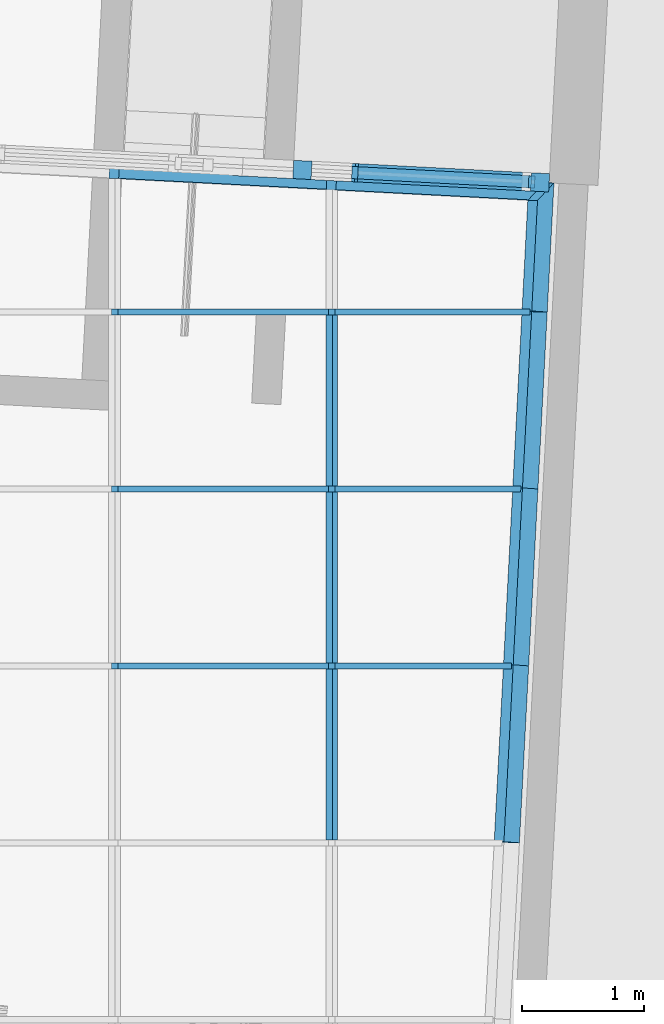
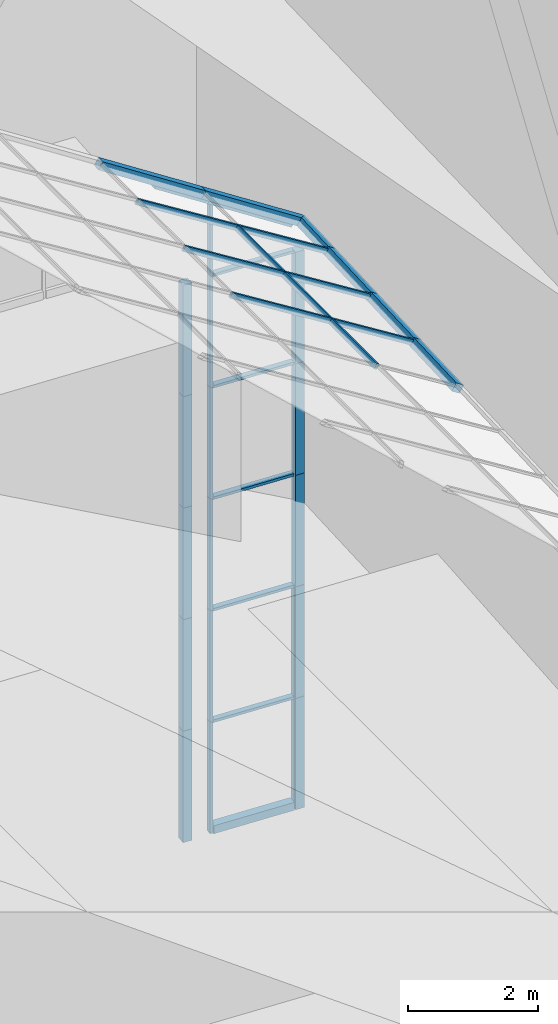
# One storey, part 21 of 82: 41 members, 1 element without a shape of its own.
"""IFC2X3 building model written with IfcOpenShell, lengths in millimetres."""

from ifc_helpers import new_model, entity, si_unit, converted_unit, derived_unit, direction, frame, frame_2d, origin, origin_2d_with_axis, place, context, subcontext, project, spatial, polyline, rectangle, extrude, clip, halfspace, bounded_halfspace, source, transform, mapped, material, type_object, type_shapes, element, aggregate, save


model = new_model("IFC2X3")

# Units and contexts
model_context = context("Model", 3, precision=0.01, world=origin(), true_north=direction((6.12303176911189e-17, 1.0)))
body_context = subcontext(model_context, "Body", "Model", "MODEL_VIEW")
ifc_project = project(units=[si_unit("LENGTHUNIT", "METRE", prefix="MILLI"), si_unit("AREAUNIT", "SQUARE_METRE"), si_unit("VOLUMEUNIT", "CUBIC_METRE"), converted_unit("PLANEANGLEUNIT", "DEGREE", entity("IfcRatioMeasure", 0.0174532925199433), si_unit("PLANEANGLEUNIT", "RADIAN"), dimensions=[0, 0, 0, 0, 0, 0, 0]), si_unit("MASSUNIT", "GRAM", prefix="KILO"), derived_unit("MASSDENSITYUNIT", [(si_unit("MASSUNIT", "GRAM", prefix="KILO"), 1), (si_unit("LENGTHUNIT", "METRE"), -3)]), si_unit("TIMEUNIT", "SECOND"), si_unit("FREQUENCYUNIT", "HERTZ"), si_unit("THERMODYNAMICTEMPERATUREUNIT", "DEGREE_CELSIUS"), derived_unit("THERMALTRANSMITTANCEUNIT", [(si_unit("MASSUNIT", "GRAM", prefix="KILO"), 1), (si_unit("THERMODYNAMICTEMPERATUREUNIT", "KELVIN"), -1), (si_unit("TIMEUNIT", "SECOND"), -3)]), derived_unit("VOLUMETRICFLOWRATEUNIT", [(si_unit("LENGTHUNIT", "METRE"), 3), (si_unit("TIMEUNIT", "SECOND"), -1)]), si_unit("ELECTRICCURRENTUNIT", "AMPERE"), si_unit("ELECTRICVOLTAGEUNIT", "VOLT"), si_unit("POWERUNIT", "WATT"), si_unit("FORCEUNIT", "NEWTON", prefix="KILO"), si_unit("ILLUMINANCEUNIT", "LUX"), si_unit("LUMINOUSFLUXUNIT", "LUMEN"), si_unit("LUMINOUSINTENSITYUNIT", "CANDELA"), derived_unit("USERDEFINED", [(si_unit("MASSUNIT", "GRAM", prefix="KILO"), -1), (si_unit("LENGTHUNIT", "METRE"), -2), (si_unit("TIMEUNIT", "SECOND"), 3), (si_unit("LUMINOUSFLUXUNIT", "LUMEN"), 1)]), derived_unit("LINEARVELOCITYUNIT", [(si_unit("LENGTHUNIT", "METRE"), 1), (si_unit("TIMEUNIT", "SECOND"), -1)]), si_unit("PRESSUREUNIT", "PASCAL"), derived_unit("USERDEFINED", [(si_unit("LENGTHUNIT", "METRE"), -2), (si_unit("MASSUNIT", "GRAM", prefix="KILO"), 1), (si_unit("TIMEUNIT", "SECOND"), -2)])], contexts=[model_context])

# Site, building, storey
site_placement = place(None, origin())
site = spatial("IfcSite", under=ifc_project, at=site_placement, Name="表面", CompositionType="ELEMENT")
building_placement = place(site_placement, origin())
building = spatial("IfcBuilding", under=site, at=building_placement, CompositionType="ELEMENT")
storey_placement = place(building_placement, origin())
storey = spatial("IfcBuildingStorey", under=building, at=storey_placement, Name="1F", CompositionType="ELEMENT", Elevation=0.0)

# Curtain wall, members
curtain_wall_type = type_object("IfcCurtainWallType", Name="幕墙系统:1450 x 2100mm", PredefinedType="NOTDEFINED")
curtain_wall_placement = place(storey_placement, origin())
curtain_wall = element("IfcCurtainWall", 1, at=curtain_wall_placement, inside=storey, type_object=curtain_wall_type, Name="幕墙系统:1450 x 2100mm", ObjectType="幕墙系统:1450 x 2100mm")
ifc_material_1 = material(Name="金属 - 铝")
member_type_1 = type_object("IfcMemberType", Name="50 x 100mm", PredefinedType="MEMBER")
shared_shape_1 = source(origin(), body_context, "Body", "SweptSolid", [
    extrude(rectangle(XDim=100.0, YDim=50.0, at=origin_2d_with_axis()), frame((0.0, 0.0, -1400.0), z_axis=(0.0, 0.0, 1.0), x_axis=(0.0, -1.0, 0.0)), (0.0, 0.0, 1.0), 1400.0),
])
type_shapes(member_type_1, [shared_shape_1])
placement_1 = place(building_placement, frame((0.0, 0.0, 9000.0)))
member_1_placement = place(placement_1, frame((-19919.0996129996, 1086.09684648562, 3143.03179701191), z_axis=(0.0, 1.0, 0.0), x_axis=(-0.848048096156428, 0.0, 0.529919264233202)))
member_1 = element("IfcMember", 2, at=member_1_placement, type_object=member_type_1, material=ifc_material_1, Name="矩形竖梃:50 x 100mm", ObjectType="50 x 100mm", context=body_context, shape_type="MappedRepresentation", body=[
    mapped(shared_shape_1, transform((0.0, 0.0, 0.0), scale=1.0)),
])
member_2_placement = place(placement_1, frame((-19919.0996129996, -363.903153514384, 3143.03179701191), z_axis=(0.0, 1.0, 0.0), x_axis=(-0.848048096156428, 0.0, 0.529919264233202)))
member_2 = element("IfcMember", 3, at=member_2_placement, type_object=member_type_1, material=ifc_material_1, Name="矩形竖梃:50 x 100mm", ObjectType="50 x 100mm", context=body_context, shape_type="MappedRepresentation", body=[
    mapped(shared_shape_1, transform((0.0, 0.0, 0.0), scale=1.0)),
])
member_3_placement = place(placement_1, frame((-19919.0996129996, -1813.90315351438, 3143.03179701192), z_axis=(0.0, 1.0, 0.0), x_axis=(-0.848048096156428, 0.0, 0.529919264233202)))
member_3 = element("IfcMember", 4, at=member_3_placement, type_object=member_type_1, material=ifc_material_1, Name="矩形竖梃:50 x 100mm", ObjectType="50 x 100mm", context=body_context, shape_type="MappedRepresentation", body=[
    mapped(shared_shape_1, transform((0.0, 0.0, 0.0), scale=1.0)),
])
member_4_placement = place(storey_placement, frame((-19705.2450585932, 2252.12508060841, 2100.0), z_axis=(-0.998629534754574, 0.0523359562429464, 0.0), x_axis=(0.0, 0.0, 1.0)))
member_4 = element("IfcMember", 5, at=member_4_placement, type_object=member_type_1, material=ifc_material_1, Name="矩形竖梃:50 x 100mm", ObjectType="50 x 100mm", context=body_context, shape_type="MappedRepresentation", body=[
    mapped(shared_shape_1, transform((0.0, 0.0, 0.0), scale=1.0)),
])
placement_2 = place(building_placement, frame((0.0, 0.0, 3000.0)))
member_5_placement = place(placement_2, frame((-19705.2450585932, 2252.12508060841, 1200.0), z_axis=(-0.998629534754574, 0.0523359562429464, 0.0), x_axis=(0.0, 0.0, 1.0)))
member_5 = element("IfcMember", 6, at=member_5_placement, type_object=member_type_1, material=ifc_material_1, Name="矩形竖梃:50 x 100mm", ObjectType="50 x 100mm", context=body_context, shape_type="MappedRepresentation", body=[
    mapped(shared_shape_1, transform((0.0, 0.0, 0.0), scale=1.0)),
])
placement_3 = place(building_placement, frame((0.0, 0.0, 6000.0)))
member_6_placement = place(placement_3, frame((-19705.2450585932, 2252.1250806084, 300.0), z_axis=(-0.998629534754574, 0.0523359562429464, 0.0), x_axis=(0.0, 0.0, 1.0)))
member_6 = element("IfcMember", 7, at=member_6_placement, type_object=member_type_1, material=ifc_material_1, Name="矩形竖梃:50 x 100mm", ObjectType="50 x 100mm", context=body_context, shape_type="MappedRepresentation", body=[
    mapped(shared_shape_1, transform((0.0, 0.0, 0.0), scale=1.0)),
])
member_7_placement = place(placement_3, frame((-19705.2450585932, 2252.1250806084, 2400.0), z_axis=(-0.998629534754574, 0.0523359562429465, 0.0), x_axis=(0.0, 0.0, 1.0)))
member_7 = element("IfcMember", 8, at=member_7_placement, type_object=member_type_1, material=ifc_material_1, Name="矩形竖梃:50 x 100mm", ObjectType="50 x 100mm", context=body_context, shape_type="MappedRepresentation", body=[
    mapped(shared_shape_1, transform((0.0, 0.0, 0.0), scale=1.0)),
])
member_8_placement = place(placement_1, frame((-19705.2450585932, 2252.1250806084, 1500.0), z_axis=(-0.998629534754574, 0.0523359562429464, 0.0), x_axis=(0.0, 0.0, 1.0)))
member_8 = element("IfcMember", 9, at=member_8_placement, type_object=member_type_1, material=ifc_material_1, Name="矩形竖梃:50 x 100mm", ObjectType="50 x 100mm", context=body_context, shape_type="MappedRepresentation", body=[
    mapped(shared_shape_1, transform((0.0, 0.0, 0.0), scale=1.0)),
])
member_type_2 = type_object("IfcMemberType", Name="50 x 100mm", PredefinedType="MEMBER")
shared_shape_2 = source(origin(), body_context, "Body", "SweptSolid", [
    extrude(rectangle(XDim=100.0, YDim=50.0, at=origin_2d_with_axis()), frame((0.0, 0.0, -2100.0), z_axis=(0.0, 0.0, 1.0), x_axis=(0.0, -1.0, 0.0)), (0.0, 0.0, 1.0), 2100.0),
])
type_shapes(member_type_2, [shared_shape_2])
member_9_placement = place(storey_placement, frame((-19730.2107969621, 2253.43347951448, 2100.0), z_axis=(0.0, 0.0, 1.0), x_axis=(0.998629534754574, -0.0523359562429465, 0.0)))
member_9 = element("IfcMember", 10, at=member_9_placement, type_object=member_type_2, material=ifc_material_1, Name="矩形竖梃:50 x 100mm", ObjectType="50 x 100mm", context=body_context, shape_type="MappedRepresentation", body=[
    mapped(shared_shape_2, transform((0.0, 0.0, 0.0), scale=1.0)),
])
member_10_placement = place(storey_placement, frame((-18282.1979715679, 2177.54634296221, 2100.0), z_axis=(0.0, 0.0, 1.0), x_axis=(0.998629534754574, -0.0523359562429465, 0.0)))
member_10 = element("IfcMember", 11, at=member_10_placement, type_object=member_type_2, material=ifc_material_1, Name="矩形竖梃:50 x 100mm", ObjectType="50 x 100mm", context=body_context, shape_type="MappedRepresentation", body=[
    mapped(shared_shape_2, transform((0.0, 0.0, 0.0), scale=1.0)),
])
member_type_3 = type_object("IfcMemberType", Name="50 x 100mm", PredefinedType="MEMBER")
shared_shape_3 = source(origin(), body_context, "Body", "SweptSolid", [
    extrude(rectangle(XDim=100.0, YDim=50.0, at=origin_2d_with_axis()), frame((0.0, 0.0, -2100.0), z_axis=(0.0, 0.0, 1.0), x_axis=(0.0, -1.0, 0.0)), (0.0, 0.0, 1.0), 2100.0),
])
type_shapes(member_type_3, [shared_shape_3])
member_11_placement = place(placement_1, frame((-21700.0006149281, 1111.09684648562, 4255.86225190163), z_axis=(-0.848048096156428, 0.0, 0.529919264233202), x_axis=(0.0, -1.0, 0.0)))
member_11 = element("IfcMember", 12, at=member_11_placement, type_object=member_type_3, material=ifc_material_1, Name="矩形竖梃:50 x 100mm", ObjectType="50 x 100mm", context=body_context, shape_type="MappedRepresentation", body=[
    mapped(shared_shape_3, transform((0.0, 0.0, 0.0), scale=1.0)),
])
member_12_placement = place(placement_1, frame((-21700.0006149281, -338.903153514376, 4255.86225190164), z_axis=(-0.848048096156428, 0.0, 0.529919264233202), x_axis=(0.0, -1.0, 0.0)))
member_12 = element("IfcMember", 13, at=member_12_placement, type_object=member_type_3, material=ifc_material_1, Name="矩形竖梃:50 x 100mm", ObjectType="50 x 100mm", context=body_context, shape_type="MappedRepresentation", body=[
    mapped(shared_shape_3, transform((0.0, 0.0, 0.0), scale=1.0)),
])
member_13_placement = place(placement_1, frame((-21700.0006149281, -1788.90315351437, 4255.86225190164), z_axis=(-0.848048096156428, 0.0, 0.529919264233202), x_axis=(0.0, -1.0, 0.0)))
member_13 = element("IfcMember", 14, at=member_13_placement, type_object=member_type_3, material=ifc_material_1, Name="矩形竖梃:50 x 100mm", ObjectType="50 x 100mm", context=body_context, shape_type="MappedRepresentation", body=[
    mapped(shared_shape_3, transform((0.0, 0.0, 0.0), scale=1.0)),
])
member_14_placement = place(storey_placement, frame((-19730.2107969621, 2253.43347951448, 4200.0), z_axis=(0.0, 0.0, 1.0), x_axis=(0.998629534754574, -0.0523359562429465, 0.0)))
member_14 = element("IfcMember", 15, at=member_14_placement, type_object=member_type_3, material=ifc_material_1, Name="矩形竖梃:50 x 100mm", ObjectType="50 x 100mm", context=body_context, shape_type="MappedRepresentation", body=[
    mapped(shared_shape_3, transform((0.0, 0.0, 0.0), scale=1.0)),
])
member_15_placement = place(storey_placement, frame((-18282.1979715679, 2177.54634296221, 4200.0), z_axis=(0.0, 0.0, 1.0), x_axis=(0.998629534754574, -0.0523359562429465, 0.0)))
member_15 = element("IfcMember", 16, at=member_15_placement, type_object=member_type_3, material=ifc_material_1, Name="矩形竖梃:50 x 100mm", ObjectType="50 x 100mm", context=body_context, shape_type="MappedRepresentation", body=[
    mapped(shared_shape_3, transform((0.0, 0.0, 0.0), scale=1.0)),
])
member_16_placement = place(placement_2, frame((-19730.2107969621, 2253.43347951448, 3300.0), z_axis=(0.0, 0.0, 1.0), x_axis=(0.998629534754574, -0.0523359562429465, 0.0)))
member_16 = element("IfcMember", 17, at=member_16_placement, type_object=member_type_3, material=ifc_material_1, Name="矩形竖梃:50 x 100mm", ObjectType="50 x 100mm", context=body_context, shape_type="MappedRepresentation", body=[
    mapped(shared_shape_3, transform((0.0, 0.0, 0.0), scale=1.0)),
])
member_17_placement = place(placement_3, frame((-19730.2107969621, 2253.43347951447, 2400.0), z_axis=(0.0, 0.0, 1.0), x_axis=(0.998629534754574, -0.0523359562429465, 0.0)))
member_17 = element("IfcMember", 18, at=member_17_placement, type_object=member_type_3, material=ifc_material_1, Name="矩形竖梃:50 x 100mm", ObjectType="50 x 100mm", context=body_context, shape_type="MappedRepresentation", body=[
    mapped(shared_shape_3, transform((0.0, 0.0, 0.0), scale=1.0)),
])
member_18_placement = place(placement_3, frame((-19730.2107969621, 2253.43347951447, 4500.0), z_axis=(0.0, 0.0, 1.0), x_axis=(0.998629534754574, -0.0523359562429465, 0.0)))
member_18 = element("IfcMember", 19, at=member_18_placement, type_object=member_type_3, material=ifc_material_1, Name="矩形竖梃:50 x 100mm", ObjectType="50 x 100mm", context=body_context, shape_type="MappedRepresentation", body=[
    mapped(shared_shape_3, transform((0.0, 0.0, 0.0), scale=1.0)),
])
ifc_material_2 = material(Name="木质 - 木材")
member_type_4 = type_object("IfcMemberType", Name="200 x 150mm", PredefinedType="MEMBER")
shared_shape_4 = source(origin(), body_context, "Body", "SweptSolid", [
    extrude(rectangle(XDim=150.0, YDim=150.0, at=origin_2d_with_axis()), frame((-75.0, 0.0, -1400.0), z_axis=(0.0, 0.0, 1.0), x_axis=(0.0, -1.0, 0.0)), (0.0, 0.0, 1.0), 1400.0),
])
type_shapes(member_type_4, [shared_shape_4])
member_19_placement = place(storey_placement, frame((-18307.1637099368, 2178.85474186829, 0.0), z_axis=(0.998629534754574, -0.0523359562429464, 0.0), x_axis=(0.0, 0.0, -1.0)))
member_19 = element("IfcMember", 20, at=member_19_placement, type_object=member_type_4, material=ifc_material_2, Name="矩形竖梃:200 x 150mm", ObjectType="200 x 150mm", context=body_context, shape_type="MappedRepresentation", body=[
    mapped(shared_shape_4, transform((0.0, 0.0, 0.0), scale=1.0)),
])
member_type_5 = type_object("IfcMemberType", Name="200 x 150mm", PredefinedType="MEMBER")
shared_shape_5 = source(origin(), body_context, "Body", "SweptSolid", [
    extrude(rectangle(XDim=150.0, YDim=150.0, at=origin_2d_with_axis()), frame((-75.0, 0.0, -2100.0), z_axis=(0.0, 0.0, 1.0), x_axis=(0.0, -1.0, 0.0)), (0.0, 0.0, 1.0), 2100.0),
])
type_shapes(member_type_5, [shared_shape_5])
member_20_placement = place(storey_placement, frame((-20235.3206340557, 2279.90516437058, 0.0), z_axis=(0.0, 0.0, -1.0), x_axis=(-0.998629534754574, 0.0523359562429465, 0.0)))
member_20 = element("IfcMember", 21, at=member_20_placement, type_object=member_type_5, material=ifc_material_2, Name="矩形竖梃:200 x 150mm", ObjectType="200 x 150mm", context=body_context, shape_type="MappedRepresentation", body=[
    mapped(shared_shape_5, transform((0.0, 0.0, 0.0), scale=1.0)),
])
member_type_6 = type_object("IfcMemberType", Name="200 x 150mm", PredefinedType="MEMBER")
shared_shape_6 = source(origin(), body_context, "Body", "SweptSolid", [
    extrude(rectangle(XDim=150.0, YDim=150.0, at=origin_2d_with_axis()), frame((-75.0, 0.0, -2100.0), z_axis=(0.0, 0.0, 1.0), x_axis=(0.0, -1.0, 0.0)), (0.0, 0.0, 1.0), 2100.0),
])
type_shapes(member_type_6, [shared_shape_6])
member_21_placement = place(storey_placement, frame((-20235.3206340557, 2279.90516437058, 2100.0), z_axis=(0.0, 0.0, -1.0), x_axis=(-0.998629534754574, 0.0523359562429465, 0.0)))
member_21 = element("IfcMember", 22, at=member_21_placement, type_object=member_type_6, material=ifc_material_2, Name="矩形竖梃:200 x 150mm", ObjectType="200 x 150mm", context=body_context, shape_type="MappedRepresentation", body=[
    mapped(shared_shape_6, transform((0.0, 0.0, 0.0), scale=1.0)),
])
member_22_placement = place(placement_2, frame((-20235.3206340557, 2279.90516437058, 1200.0), z_axis=(0.0, 0.0, -1.0), x_axis=(-0.998629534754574, 0.0523359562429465, 0.0)))
member_22 = element("IfcMember", 23, at=member_22_placement, type_object=member_type_6, material=ifc_material_2, Name="矩形竖梃:200 x 150mm", ObjectType="200 x 150mm", context=body_context, shape_type="MappedRepresentation", body=[
    mapped(shared_shape_6, transform((0.0, 0.0, 0.0), scale=1.0)),
])
member_23_placement = place(placement_3, frame((-20235.3206340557, 2279.90516437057, 300.0), z_axis=(0.0, 0.0, -1.0), x_axis=(-0.998629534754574, 0.0523359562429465, 0.0)))
member_23 = element("IfcMember", 24, at=member_23_placement, type_object=member_type_6, material=ifc_material_2, Name="矩形竖梃:200 x 150mm", ObjectType="200 x 150mm", context=body_context, shape_type="MappedRepresentation", body=[
    mapped(shared_shape_6, transform((0.0, 0.0, 0.0), scale=1.0)),
])
member_24_placement = place(placement_3, frame((-20235.3206340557, 2279.90516437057, 2400.0), z_axis=(0.0, 0.0, -1.0), x_axis=(-0.998629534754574, 0.0523359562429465, 0.0)))
member_24 = element("IfcMember", 25, at=member_24_placement, type_object=member_type_6, material=ifc_material_2, Name="矩形竖梃:200 x 150mm", ObjectType="200 x 150mm", context=body_context, shape_type="MappedRepresentation", body=[
    mapped(shared_shape_6, transform((0.0, 0.0, 0.0), scale=1.0)),
])
member_type_7 = type_object("IfcMemberType", Name="200 x 150mm", PredefinedType="MEMBER")
shared_shape_7 = source(origin(), body_context, "Body", "SweptSolid", [
    extrude(rectangle(XDim=150.0, YDim=150.0, at=origin_2d_with_axis()), frame((-75.0, 0.0, -2100.0), z_axis=(0.0, 0.0, 1.0), x_axis=(0.0, -1.0, 0.0)), (0.0, 0.0, 1.0), 2100.0),
])
type_shapes(member_type_7, [shared_shape_7])
member_25_placement = place(storey_placement, frame((-18138.1986110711, 2169.99965626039, 2100.0), z_axis=(0.0, 0.0, 1.0), x_axis=(0.998629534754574, -0.0523359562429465, 0.0)))
member_25 = element("IfcMember", 26, at=member_25_placement, type_object=member_type_7, material=ifc_material_2, Name="矩形竖梃:200 x 150mm", ObjectType="200 x 150mm", context=body_context, shape_type="MappedRepresentation", body=[
    mapped(shared_shape_7, transform((0.0, 0.0, 0.0), scale=1.0)),
])
member_type_8 = type_object("IfcMemberType", Name="200 x 150mm", PredefinedType="MEMBER")
shared_shape_8 = source(origin(), body_context, "Body", "SweptSolid", [
    extrude(rectangle(XDim=150.0, YDim=150.0, at=origin_2d_with_axis()), frame((-75.0, 0.0, -2100.0), z_axis=(0.0, 0.0, 1.0), x_axis=(0.0, -1.0, 0.0)), (0.0, 0.0, 1.0), 2100.0),
])
type_shapes(member_type_8, [shared_shape_8])
member_26_placement = place(storey_placement, frame((-18138.1986110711, 2169.99965626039, 4200.0), z_axis=(0.0, 0.0, 1.0), x_axis=(0.998629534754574, -0.0523359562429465, 0.0)))
member_26 = element("IfcMember", 27, at=member_26_placement, type_object=member_type_8, material=ifc_material_2, Name="矩形竖梃:200 x 150mm", ObjectType="200 x 150mm", context=body_context, shape_type="MappedRepresentation", body=[
    mapped(shared_shape_8, transform((0.0, 0.0, 0.0), scale=1.0)),
])
member_27_placement = place(placement_2, frame((-18138.1986110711, 2169.99965626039, 3300.0), z_axis=(0.0, 0.0, 1.0), x_axis=(0.998629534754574, -0.0523359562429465, 0.0)))
member_27 = element("IfcMember", 28, at=member_27_placement, type_object=member_type_8, material=ifc_material_2, Name="矩形竖梃:200 x 150mm", ObjectType="200 x 150mm", context=body_context, shape_type="MappedRepresentation", body=[
    mapped(shared_shape_8, transform((0.0, 0.0, 0.0), scale=1.0)),
])
member_28_placement = place(placement_3, frame((-18138.1986110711, 2169.99965626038, 2400.0), z_axis=(0.0, 0.0, 1.0), x_axis=(0.998629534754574, -0.0523359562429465, 0.0)))
member_28 = element("IfcMember", 29, at=member_28_placement, type_object=member_type_8, material=ifc_material_2, Name="矩形竖梃:200 x 150mm", ObjectType="200 x 150mm", context=body_context, shape_type="MappedRepresentation", body=[
    mapped(shared_shape_8, transform((0.0, 0.0, 0.0), scale=1.0)),
])
member_29_placement = place(placement_3, frame((-18138.1986110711, 2169.99965626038, 4500.0), z_axis=(0.0, 0.0, 1.0), x_axis=(0.998629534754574, -0.0523359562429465, 0.0)))
member_29 = element("IfcMember", 30, at=member_29_placement, type_object=member_type_8, material=ifc_material_2, Name="矩形竖梃:200 x 150mm", ObjectType="200 x 150mm", context=body_context, shape_type="MappedRepresentation", body=[
    mapped(shared_shape_8, transform((0.0, 0.0, 0.0), scale=1.0)),
])
member_type_9 = type_object("IfcMemberType", Name="200 x 150mm", PredefinedType="MEMBER")
shared_shape_9 = source(origin(), body_context, "Body", "Clipping", [
    clip(extrude(rectangle(XDim=150.0, YDim=150.0, at=frame_2d((1.35003119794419e-13, 0.0), x_axis=(1.0, 0.0))), frame((-75.0, 0.0, -2102.07303900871), z_axis=(0.0, 0.0, 1.0), x_axis=(0.0, -1.0, 0.0)), (0.0, 0.0, 1.0), 2102.07303900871), halfspace(frame((0.0, -304.8, 0.0), z_axis=(-0.713198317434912, 0.0, 0.7009623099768), x_axis=(-0.7009623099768, 0.0, -0.713198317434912)), False)),
])
type_shapes(member_type_9, [shared_shape_9])
member_30_placement = place(placement_1, frame((-18138.1986110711, 2169.99965626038, 2030.20134212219), z_axis=(0.847211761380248, -0.0444004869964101, -0.529396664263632), x_axis=(0.0376537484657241, 0.999013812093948, -0.023528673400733)))
member_30 = element("IfcMember", 31, at=member_30_placement, type_object=member_type_9, material=ifc_material_2, Name="矩形竖梃:200 x 150mm", ObjectType="200 x 150mm", context=body_context, shape_type="MappedRepresentation", body=[
    mapped(shared_shape_9, transform((0.0, 0.0, 0.0), scale=1.0)),
])
member_type_10 = type_object("IfcMemberType", Name="200 x 150mm", PredefinedType="MEMBER")
shared_shape_10 = source(origin(), body_context, "Body", "Clipping", [
    clip(extrude(rectangle(XDim=150.0, YDim=150.0, at=origin_2d_with_axis()), frame((-75.0, 0.0, -1060.92286201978), z_axis=(0.0, 0.0, 1.0), x_axis=(0.0, -1.0, 0.0)), (0.0, 0.0, 1.0), 1060.92286201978), halfspace(frame((0.0, -304.800000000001, -1060.92286201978), z_axis=(-0.713198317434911, 0.0, -0.7009623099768), x_axis=(-0.7009623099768, 0.0, 0.713198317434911)), False)),
])
type_shapes(member_type_10, [shared_shape_10])
member_31_placement = place(placement_1, frame((-18193.693355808, 1111.09684648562, 2064.87830730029), z_axis=(-0.0523079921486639, -0.998095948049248, 0.0326856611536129), x_axis=(0.846433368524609, -0.0616804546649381, -0.528910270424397)))
member_31 = element("IfcMember", 32, at=member_31_placement, type_object=member_type_10, material=ifc_material_2, Name="矩形竖梃:200 x 150mm", ObjectType="200 x 150mm", context=body_context, shape_type="MappedRepresentation", body=[
    mapped(shared_shape_10, transform((0.0, 0.0, 0.0), scale=1.0)),
])
member_type_11 = type_object("IfcMemberType", Name="200 x 150mm", PredefinedType="MEMBER")
shared_shape_11 = source(origin(), body_context, "Body", "SweptSolid", [
    extrude(rectangle(XDim=150.0, YDim=150.0, at=origin_2d_with_axis()), frame((-75.0, 0.0, -1452.76614220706), z_axis=(0.0, 0.0, 1.0), x_axis=(0.0, -1.0, 0.0)), (0.0, 0.0, 1.0), 1452.76614220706),
])
type_shapes(member_type_11, [shared_shape_11])
member_32_placement = place(placement_1, frame((-18269.6846357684, -338.903153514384, 2112.36292915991), z_axis=(-0.0523079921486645, -0.998095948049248, 0.032685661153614), x_axis=(0.846433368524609, -0.0616804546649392, -0.528910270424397)))
member_32 = element("IfcMember", 33, at=member_32_placement, type_object=member_type_11, material=ifc_material_2, Name="矩形竖梃:200 x 150mm", ObjectType="200 x 150mm", context=body_context, shape_type="MappedRepresentation", body=[
    mapped(shared_shape_11, transform((0.0, 0.0, 0.0), scale=1.0)),
])
member_type_12 = type_object("IfcMemberType", Name="200 x 150mm", PredefinedType="MEMBER")
shared_shape_12 = source(origin(), body_context, "Body", "SweptSolid", [
    extrude(rectangle(XDim=150.0, YDim=150.0, at=frame_2d((2.8421709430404e-14, 0.0), x_axis=(1.0, 0.0))), frame((-75.0, 0.0, -1452.76614220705), z_axis=(0.0, 0.0, 1.0), x_axis=(0.0, -1.0, 0.0)), (0.0, 0.0, 1.0), 1452.76614220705),
])
type_shapes(member_type_12, [shared_shape_12])
member_33_placement = place(placement_1, frame((-18345.6759157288, -1788.90315351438, 2159.84755101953), z_axis=(-0.0523079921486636, -0.998095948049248, 0.0326856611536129), x_axis=(0.84643336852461, -0.0616804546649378, -0.528910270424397)))
member_33 = element("IfcMember", 34, at=member_33_placement, type_object=member_type_12, material=ifc_material_2, Name="矩形竖梃:200 x 150mm", ObjectType="200 x 150mm", context=body_context, shape_type="MappedRepresentation", body=[
    mapped(shared_shape_12, transform((0.0, 0.0, 0.0), scale=1.0)),
])
member_34_placement = place(placement_1, frame((-18421.6671956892, -3238.90315351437, 2207.33217287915), z_axis=(-0.0523079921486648, -0.998095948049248, 0.0326856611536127), x_axis=(0.846433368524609, -0.0616804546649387, -0.528910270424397)))
member_34 = element("IfcMember", 35, at=member_34_placement, type_object=member_type_12, material=ifc_material_2, Name="矩形竖梃:200 x 150mm", ObjectType="200 x 150mm", context=body_context, shape_type="MappedRepresentation", body=[
    mapped(shared_shape_12, transform((0.0, 0.0, 0.0), scale=1.0)),
])
member_type_13 = type_object("IfcMemberType", Name="200 x 150mm", PredefinedType="MEMBER")
shared_shape_13 = source(origin(), body_context, "Body", "SweptSolid", [
    extrude(rectangle(XDim=150.0, YDim=150.0, at=origin_2d_with_axis()), frame((-75.0, 0.0, -2102.07303900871), z_axis=(0.0, 0.0, 1.0), x_axis=(0.0, -1.0, 0.0)), (0.0, 0.0, 1.0), 2102.07303900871),
])
type_shapes(member_type_13, [shared_shape_13])
member_35_placement = place(placement_1, frame((-19919.0996129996, 2263.33272289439, 3143.03179701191), z_axis=(0.847211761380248, -0.0444004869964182, -0.529396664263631), x_axis=(0.0376537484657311, 0.999013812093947, -0.0235286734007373)))
member_35 = element("IfcMember", 36, at=member_35_placement, type_object=member_type_13, material=ifc_material_2, Name="矩形竖梃:200 x 150mm", ObjectType="200 x 150mm", context=body_context, shape_type="MappedRepresentation", body=[
    mapped(shared_shape_13, transform((0.0, 0.0, 0.0), scale=1.0)),
])
member_type_14 = type_object("IfcMemberType", Name="50 x 100mm", PredefinedType="MEMBER")
shared_shape_14 = source(origin(), body_context, "Body", "Clipping", [
    clip(clip(extrude(rectangle(XDim=100.0, YDim=50.0, at=origin_2d_with_axis()), frame((0.0, 0.0, -1885.82059590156), z_axis=(0.0, 0.0, 1.0), x_axis=(0.0, -1.0, 0.0)), (0.0, 0.0, 1.0), 1885.82059590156), bounded_halfspace(frame((-9.2520681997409, 75.0, -1884.84740329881), z_axis=(0.0616804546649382, 0.0, -0.998095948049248), x_axis=(-0.998095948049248, 0.0, -0.0616804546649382)), False, frame((0.0, 0.0, -1885.82059590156), z_axis=(0.0, 0.0, 1.0), x_axis=(0.0, -1.0, 0.0)), polyline([(50.0, -9.2520681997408), (50.0, -25.0), (-50.0, -25.0), (-50.0, -9.25206819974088), (50.0, -9.2520681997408)]))), bounded_halfspace(frame((1440.74793180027, 75.0, -1795.24012712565), z_axis=(0.0616804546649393, 0.0, -0.998095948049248), x_axis=(-0.998095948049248, 0.0, -0.0616804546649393)), False, frame((0.0, 0.0, -1885.82059590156), z_axis=(0.0, 0.0, 1.0), x_axis=(0.0, -1.0, 0.0)), polyline([(-50.0, 25.0), (50.0, 25.0), (50.0, -9.25206819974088), (-50.0, -9.25206819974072), (-50.0, 25.0)]))),
])
type_shapes(member_type_14, [shared_shape_14])
member_36_placement = place(placement_1, frame((-19919.0996129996, 1111.09684648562, 3143.03179701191), z_axis=(-0.848048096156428, 0.0, 0.529919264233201), x_axis=(0.0, -1.0, 0.0)))
member_36 = element("IfcMember", 37, at=member_36_placement, type_object=member_type_14, material=ifc_material_1, Name="矩形竖梃:50 x 100mm", ObjectType="50 x 100mm", context=body_context, shape_type="MappedRepresentation", body=[
    mapped(shared_shape_14, transform((0.0, 0.0, 0.0), scale=1.0)),
])
member_type_15 = type_object("IfcMemberType", Name="50 x 100mm", PredefinedType="MEMBER")
shared_shape_15 = source(origin(), body_context, "Body", "Clipping", [
    clip(clip(extrude(rectangle(XDim=100.0, YDim=50.0, at=origin_2d_with_axis()), frame((0.0, 0.0, -1796.2133197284), z_axis=(0.0, 0.0, 1.0), x_axis=(0.0, -1.0, 0.0)), (0.0, 0.0, 1.0), 1796.2133197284), bounded_halfspace(frame((-9.2520681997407, 75.0, -1795.24012712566), z_axis=(0.0616804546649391, 0.0, -0.998095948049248), x_axis=(-0.998095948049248, 0.0, -0.0616804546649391)), False, frame((0.0, 0.0, -1796.2133197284), z_axis=(0.0, 0.0, 1.0), x_axis=(0.0, -1.0, 0.0)), polyline([(50.0, -9.25206819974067), (50.0, -25.0), (-50.0, -25.0), (-50.0, -9.25206819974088), (50.0, -9.25206819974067)]))), bounded_halfspace(frame((1440.74793180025, 75.0, -1705.6328509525), z_axis=(0.0616804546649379, 0.0, -0.998095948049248), x_axis=(-0.998095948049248, 0.0, -0.0616804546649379)), False, frame((0.0, 0.0, -1796.2133197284), z_axis=(0.0, 0.0, 1.0), x_axis=(0.0, -1.0, 0.0)), polyline([(-50.0, 25.0), (50.0, 25.0), (50.0, -9.25206819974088), (-50.0, -9.25206819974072), (-50.0, 25.0)]))),
])
type_shapes(member_type_15, [shared_shape_15])
member_37_placement = place(placement_1, frame((-19919.0996129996, -338.903153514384, 3143.03179701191), z_axis=(-0.848048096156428, 0.0, 0.529919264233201), x_axis=(0.0, -1.0, 0.0)))
member_37 = element("IfcMember", 38, at=member_37_placement, type_object=member_type_15, material=ifc_material_1, Name="矩形竖梃:50 x 100mm", ObjectType="50 x 100mm", context=body_context, shape_type="MappedRepresentation", body=[
    mapped(shared_shape_15, transform((0.0, 0.0, 0.0), scale=1.0)),
])
member_type_16 = type_object("IfcMemberType", Name="50 x 100mm", PredefinedType="MEMBER")
shared_shape_16 = source(origin(), body_context, "Body", "Clipping", [
    clip(clip(extrude(rectangle(XDim=100.0, YDim=50.0, at=frame_2d((-9.9475983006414e-14, 0.0), x_axis=(1.0, 0.0))), frame((0.0, 0.0, -1706.60604355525), z_axis=(0.0, 0.0, 1.0), x_axis=(0.0, -1.0, 0.0)), (0.0, 0.0, 1.0), 1706.60604355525), bounded_halfspace(frame((-9.25206819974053, 75.0, -1705.6328509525), z_axis=(0.0616804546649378, 0.0, -0.998095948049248), x_axis=(-0.998095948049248, 0.0, -0.0616804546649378)), False, frame((0.0, 0.0, -1706.60604355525), z_axis=(0.0, 0.0, 1.0), x_axis=(0.0, -1.0, 0.0)), polyline([(50.0, -9.2520681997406), (50.0, -25.0), (-50.0, -25.0), (-50.0, -9.25206819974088), (50.0, -9.2520681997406)]))), bounded_halfspace(frame((1440.74793180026, 75.0, -1616.02557477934), z_axis=(0.0616804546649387, 0.0, -0.998095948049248), x_axis=(-0.998095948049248, 0.0, -0.0616804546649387)), False, frame((0.0, 0.0, -1706.60604355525), z_axis=(0.0, 0.0, 1.0), x_axis=(0.0, -1.0, 0.0)), polyline([(-50.0, 25.0), (50.0, 25.0), (50.0, -9.25206819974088), (-50.0, -9.25206819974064), (-50.0, 25.0)]))),
])
type_shapes(member_type_16, [shared_shape_16])
member_38_placement = place(placement_1, frame((-19919.0996129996, -1788.90315351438, 3143.03179701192), z_axis=(-0.848048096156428, 0.0, 0.529919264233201), x_axis=(0.0, -1.0, 0.0)))
member_38 = element("IfcMember", 39, at=member_38_placement, type_object=member_type_16, material=ifc_material_1, Name="矩形竖梃:50 x 100mm", ObjectType="50 x 100mm", context=body_context, shape_type="MappedRepresentation", body=[
    mapped(shared_shape_16, transform((0.0, 0.0, 0.0), scale=1.0)),
])
member_type_17 = type_object("IfcMemberType", Name="200 x 150mm", PredefinedType="MEMBER")
shared_shape_17 = source(origin(), body_context, "Body", "SweptSolid", [
    extrude(rectangle(XDim=150.0, YDim=150.0, at=frame_2d((0.0, -9.9475983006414e-14), x_axis=(1.0, 0.0))), frame((-75.0, 0.0, -1709.1509955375), z_axis=(0.0, 0.0, 1.0), x_axis=(0.0, -1.0, 0.0)), (0.0, 0.0, 1.0), 1709.1509955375),
])
type_shapes(member_type_17, [shared_shape_17])
member_39_placement = place(placement_1, frame((-19730.2107969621, 2253.43347951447, 3025.00096495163), z_axis=(-0.847211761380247, 0.0444004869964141, 0.529396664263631), x_axis=(0.528671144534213, -0.0277064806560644, 0.848374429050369)))
member_39 = element("IfcMember", 40, at=member_39_placement, type_object=member_type_17, material=ifc_material_2, Name="矩形竖梃:200 x 150mm", ObjectType="200 x 150mm", context=body_context, shape_type="MappedRepresentation", body=[
    mapped(shared_shape_17, transform((0.0, 0.0, 0.0), scale=1.0)),
])
member_type_18 = type_object("IfcMemberType", Name="200 x 150mm", PredefinedType="MEMBER")
shared_shape_18 = source(origin(), body_context, "Body", "SweptSolid", [
    extrude(rectangle(XDim=150.0, YDim=150.0, at=frame_2d((-2.8421709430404e-14, 0.0), x_axis=(1.0, 0.0))), frame((-75.0, 0.0, -1086.14026846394), z_axis=(0.0, 0.0, 1.0), x_axis=(0.0, -1.0, 0.0)), (0.0, 0.0, 1.0), 1086.14026846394),
])
type_shapes(member_type_18, [shared_shape_18])
member_40_placement = place(placement_1, frame((-20650.4016069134, 2301.65863638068, 3600.0), z_axis=(-0.847211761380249, 0.044400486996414, 0.529396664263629), x_axis=(0.528671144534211, -0.0277064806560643, 0.848374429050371)))
member_40 = element("IfcMember", 41, at=member_40_placement, type_object=member_type_18, material=ifc_material_2, Name="矩形竖梃:200 x 150mm", ObjectType="200 x 150mm", context=body_context, shape_type="MappedRepresentation", body=[
    mapped(shared_shape_18, transform((0.0, 0.0, 0.0), scale=1.0)),
])
member_type_19 = type_object("IfcMemberType", Name="50 x 100mm", PredefinedType="MEMBER")
shared_shape_19 = source(origin(), body_context, "Body", "Clipping", [
    clip(extrude(rectangle(XDim=100.0, YDim=50.0, at=origin_2d_with_axis()), frame((0.0, 0.0, -1525.00096495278), z_axis=(0.0, 0.0, 1.0), x_axis=(0.0, -1.0, 0.0)), (0.0, 0.0, 1.0), 1363.79256603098), halfspace(frame((-79.4094996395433, 75.0, -127.256164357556), z_axis=(0.529396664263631, 0.0, 0.848374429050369), x_axis=(0.848374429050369, 0.0, -0.529396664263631)), False)),
])
type_shapes(member_type_19, [shared_shape_19])
member_41_placement = place(placement_1, frame((-19730.2107969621, 2253.43347951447, 3025.00096495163), z_axis=(0.0, 0.0, 1.0), x_axis=(0.998629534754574, -0.0523359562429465, 0.0)))
member_41 = element("IfcMember", 42, at=member_41_placement, type_object=member_type_19, material=ifc_material_1, Name="矩形竖梃:50 x 100mm", ObjectType="50 x 100mm", context=body_context, shape_type="MappedRepresentation", body=[
    mapped(shared_shape_19, transform((0.0, 0.0, 0.0), scale=1.0)),
])
aggregate(curtain_wall, [member_30, member_31, member_32, member_33, member_34, member_35, member_1, member_2, member_3, member_36, member_37, member_38, member_11, member_12, member_13, member_20, member_19, member_39, member_40, member_21, member_22, member_23, member_24, member_25, member_26, member_27, member_28, member_29, member_4, member_5, member_6, member_7, member_8, member_41, member_9, member_10, member_14, member_15, member_16, member_17, member_18])

save(model, "model.ifc")
